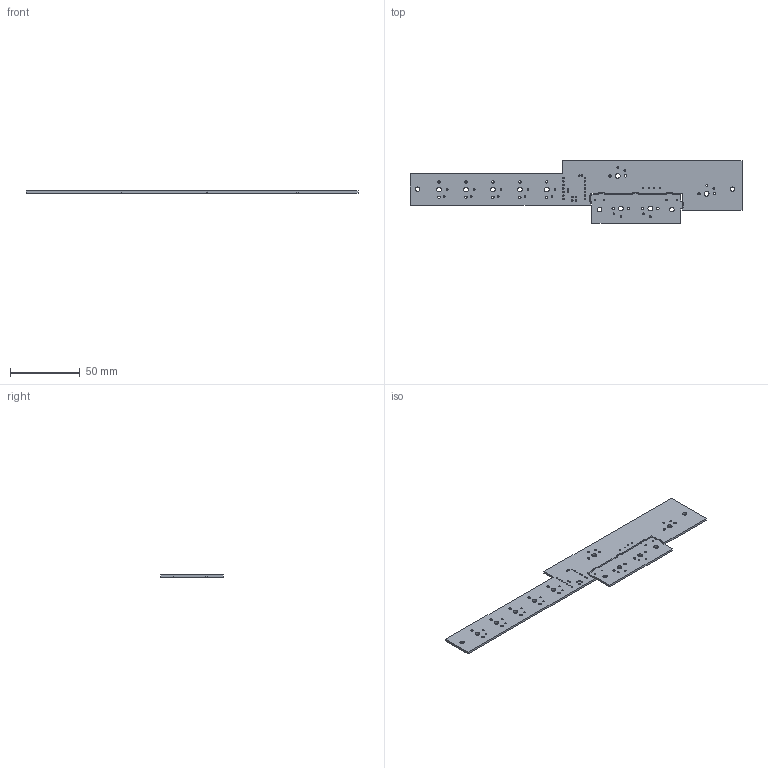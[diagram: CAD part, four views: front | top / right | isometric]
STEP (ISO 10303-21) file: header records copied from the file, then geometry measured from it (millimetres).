
FILE_DESCRIPTION(('KiCad electronic assembly'),'2;1');
FILE_NAME('.step','2026-04-06T12:09:51',('Pcbnew'),('Kicad'), 'Open CASCADE STEP processor 7.9','KiCad to STEP converter','Unknown' );
FILE_SCHEMA(('AUTOMOTIVE_DESIGN { 1 0 10303 214 1 1 1 1 }'));
Length unit declared in the file: millimetre
Products named in the file (2): .step 1; GuitarController_PCB
Assembly tree (1 placements, depth 2):
  .step 1
    GuitarController_PCB
Bounding box: 237.25 x 45 x 1.51 mm (x, y, z)
Volume: 10978.8 mm3; surface area: 16247.9 mm2
Topology: 1 solids, 1 shells, 141 faces, 417 edges, 278 vertices
Faces by surface type: cylinder 109, plane 32
Full cylindrical faces by diameter (mm): 0.75 x20, 0.8 x8, 1 x14, 1.05 x8, 1.2 x18, 1.7 x18, 3.2 x4, 3.4 x9
Entity records: 5278 total; most frequent: DIRECTION 921, CARTESIAN_POINT 838, ORIENTED_EDGE 834, EDGE_CURVE 417, AXIS2_PLACEMENT_3D 361, FACE_BOUND 347, EDGE_LOOP 347, VERTEX_POINT 278
